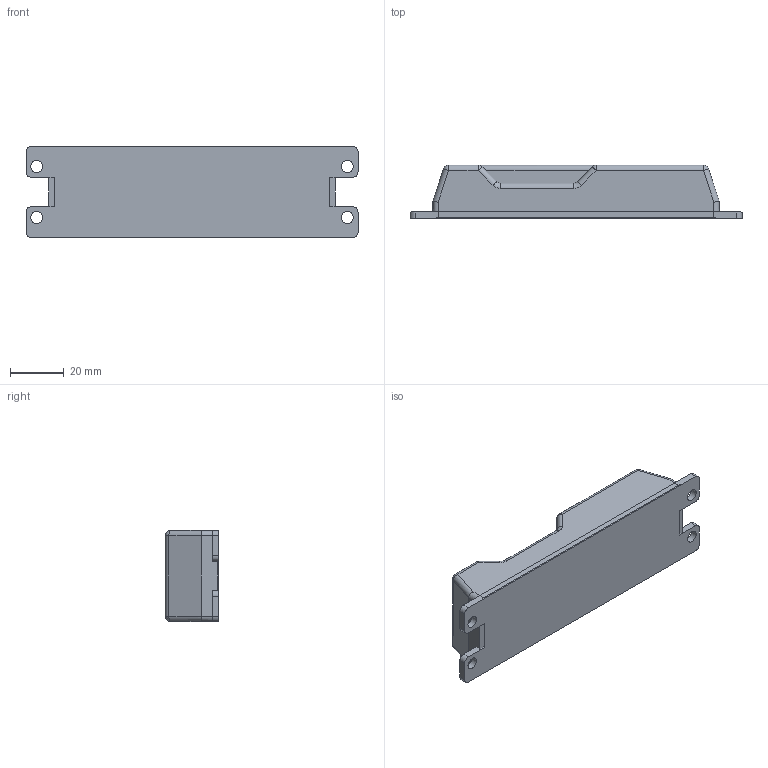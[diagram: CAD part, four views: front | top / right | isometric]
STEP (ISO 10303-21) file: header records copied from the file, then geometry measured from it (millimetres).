
FILE_DESCRIPTION(/* description */ (''),/* implementation_level */ '2;1');
FILE_NAME(/* name */ 'C:\Users\EGC-NIKE\Desktop\CB-018.stp',/* time_stamp */ '2014-12-15T10:48:00+09:00',/* author */ ('EGC-NIKE'),/* organization */ (''),/* preprocessor_version */ 'ST-DEVELOPER v15.2',/* originating_system */ 'Autodesk Inventor 2014',/* authorisation */ '');
FILE_SCHEMA (('AUTOMOTIVE_DESIGN { 1 0 10303 214 3 1 1 }'));
Length unit declared in the file: millimetre
Products named in the file (3): CB-018ケース; CB-018ケース下; CB-018
Bounding box: 124 x 20 x 34 mm (x, y, z)
Volume: 75251.8 mm3; surface area: 21004.4 mm2
Topology: 2 solids, 2 shells, 67 faces, 169 edges, 100 vertices
Faces by surface type: cylinder 33, plane 26, sphere 6, torus 2
Full cylindrical faces by diameter (mm): 4.5 x4
Entity records: 2016 total; most frequent: DIRECTION 367, CARTESIAN_POINT 331, ORIENTED_EDGE 318, EDGE_CURVE 159, AXIS2_PLACEMENT_3D 136, VERTEX_POINT 100, LINE 95, VECTOR 95
